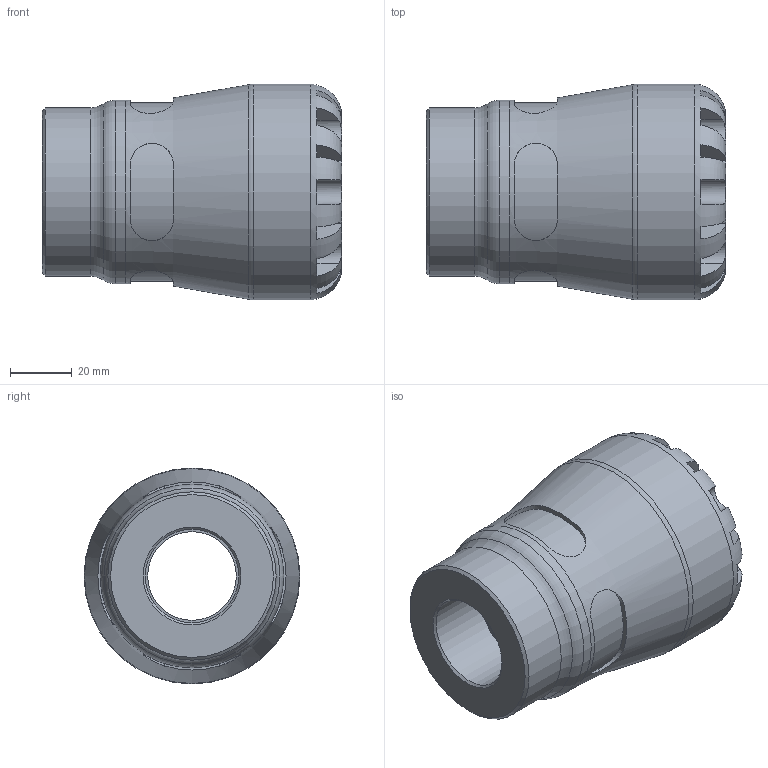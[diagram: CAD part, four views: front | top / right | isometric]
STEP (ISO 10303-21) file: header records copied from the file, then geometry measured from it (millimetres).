
FILE_DESCRIPTION(/* description */ ('PLASSON FEMALE ADAPTOR 40X1" SERIES 1'),/* implementation_level */ '2;1');
FILE_NAME(/* name */ 'C:\Dropbox\KIMPROJECTS-Inventor\99-16-3568-Processing\1003\100300040010_190300040010.ipt.step',/* time_stamp */ '2017-01-22T09:49:18+02:00',/* author */ ('KIM'),/* organization */ (''),/* preprocessor_version */ 'ST-DEVELOPER v15.6',/* originating_system */ 'Autodesk Inventor 2015',/* authorisation */ '');
FILE_SCHEMA (('AUTOMOTIVE_DESIGN { 1 0 10303 214 3 1 1 }'));
Length unit declared in the file: millimetre
Products named in the file (1): 100300040010_190300040010
Bounding box: 97 x 70 x 70 mm (x, y, z)
Volume: 188013.5 mm3; surface area: 36769.7 mm2
Topology: 1 solids, 1 shells, 104 faces, 255 edges, 159 vertices
Faces by surface type: plane 61, cylinder 35, torus 5, cone 3
Full cylindrical faces by diameter (mm): 28.776 x1, 30.291 x1, 33.333 x1, 40 x1, 54.6 x1, 59.5 x1, 70 x1
Entity records: 3882 total; most frequent: CARTESIAN_POINT 1443, DIRECTION 472, ORIENTED_EDGE 470, EDGE_CURVE 235, AXIS2_PLACEMENT_3D 196, VERTEX_POINT 155, EDGE_LOOP 128, STYLED_ITEM 105
